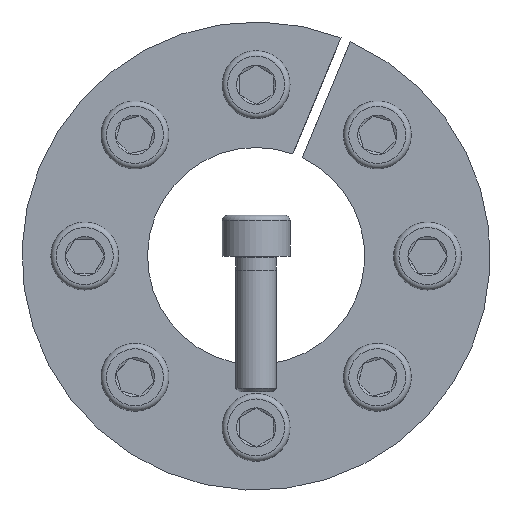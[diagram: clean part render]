
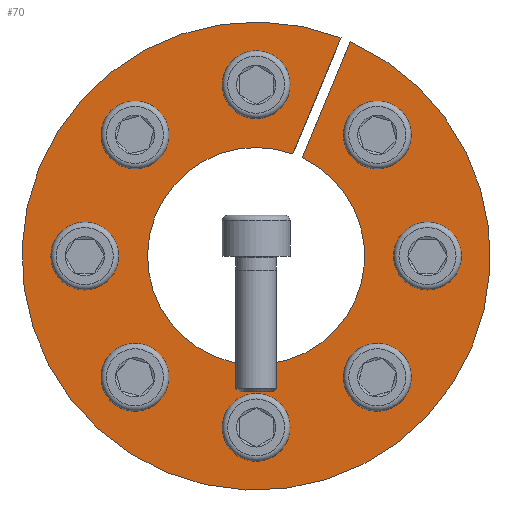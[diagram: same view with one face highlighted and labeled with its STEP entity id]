
A CAD part, front view. The second image highlights one B-rep face of the part: STEP entity #70.
In plain terms, the highlighted planar face has unit normal (0, -1, 0).
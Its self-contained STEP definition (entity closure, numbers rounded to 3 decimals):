
#70 = ADVANCED_FACE( '', ( #157, #158, #159, #160, #161, #162, #163, #164, #165 ), #166, .F. );
#157 = FACE_BOUND( '', #319, .T. );
#158 = FACE_BOUND( '', #320, .T. );
#159 = FACE_BOUND( '', #321, .T. );
#160 = FACE_BOUND( '', #322, .T. );
#161 = FACE_BOUND( '', #323, .T. );
#162 = FACE_BOUND( '', #324, .T. );
#163 = FACE_BOUND( '', #325, .T. );
#164 = FACE_BOUND( '', #326, .T. );
#165 = FACE_OUTER_BOUND( '', #327, .T. );
#166 = PLANE( '', #328 );
#319 = EDGE_LOOP( '', ( #504 ) );
#320 = EDGE_LOOP( '', ( #505 ) );
#321 = EDGE_LOOP( '', ( #506 ) );
#322 = EDGE_LOOP( '', ( #507 ) );
#323 = EDGE_LOOP( '', ( #508 ) );
#324 = EDGE_LOOP( '', ( #509 ) );
#325 = EDGE_LOOP( '', ( #510 ) );
#326 = EDGE_LOOP( '', ( #511 ) );
#327 = EDGE_LOOP( '', ( #512, #513, #514, #515 ) );
#328 = AXIS2_PLACEMENT_3D( '', #516, #517, #518 );
#504 = ORIENTED_EDGE( '', *, *, #801, .T. );
#505 = ORIENTED_EDGE( '', *, *, #802, .T. );
#506 = ORIENTED_EDGE( '', *, *, #803, .T. );
#507 = ORIENTED_EDGE( '', *, *, #804, .T. );
#508 = ORIENTED_EDGE( '', *, *, #805, .T. );
#509 = ORIENTED_EDGE( '', *, *, #806, .T. );
#510 = ORIENTED_EDGE( '', *, *, #807, .T. );
#511 = ORIENTED_EDGE( '', *, *, #808, .T. );
#512 = ORIENTED_EDGE( '', *, *, #809, .T. );
#513 = ORIENTED_EDGE( '', *, *, #810, .T. );
#514 = ORIENTED_EDGE( '', *, *, #811, .T. );
#515 = ORIENTED_EDGE( '', *, *, #812, .F. );
#516 = CARTESIAN_POINT( '', ( 0., 0., 34.5 ) );
#517 = DIRECTION( '', ( 0., 1., 0. ) );
#518 = DIRECTION( '', ( 0., 0., 1. ) );
#801 = EDGE_CURVE( '', #952, #952, #953, .T. );
#802 = EDGE_CURVE( '', #954, #954, #955, .T. );
#803 = EDGE_CURVE( '', #956, #956, #957, .T. );
#804 = EDGE_CURVE( '', #958, #958, #959, .T. );
#805 = EDGE_CURVE( '', #960, #960, #961, .T. );
#806 = EDGE_CURVE( '', #962, #962, #963, .T. );
#807 = EDGE_CURVE( '', #964, #964, #965, .T. );
#808 = EDGE_CURVE( '', #966, #966, #967, .T. );
#809 = EDGE_CURVE( '', #968, #969, #970, .T. );
#810 = EDGE_CURVE( '', #969, #971, #972, .T. );
#811 = EDGE_CURVE( '', #971, #973, #974, .T. );
#812 = EDGE_CURVE( '', #968, #973, #975, .T. );
#952 = VERTEX_POINT( '', #1239 );
#953 = CIRCLE( '', #1240, 3. );
#954 = VERTEX_POINT( '', #1241 );
#955 = CIRCLE( '', #1242, 3. );
#956 = VERTEX_POINT( '', #1243 );
#957 = CIRCLE( '', #1244, 3. );
#958 = VERTEX_POINT( '', #1245 );
#959 = CIRCLE( '', #1246, 3. );
#960 = VERTEX_POINT( '', #1247 );
#961 = CIRCLE( '', #1248, 3. );
#962 = VERTEX_POINT( '', #1249 );
#963 = CIRCLE( '', #1250, 3. );
#964 = VERTEX_POINT( '', #1251 );
#965 = CIRCLE( '', #1252, 3. );
#966 = VERTEX_POINT( '', #1253 );
#967 = CIRCLE( '', #1254, 3. );
#968 = VERTEX_POINT( '', #1255 );
#969 = VERTEX_POINT( '', #1256 );
#970 = LINE( '', #1257, #1258 );
#971 = VERTEX_POINT( '', #1259 );
#972 = CIRCLE( '', #1260, 34.5 );
#973 = VERTEX_POINT( '', #1261 );
#974 = LINE( '', #1262, #1263 );
#975 = CIRCLE( '', #1264, 16. );
#1239 = CARTESIAN_POINT( '', ( -15.733, 0., 19.976 ) );
#1240 = AXIS2_PLACEMENT_3D( '', #1443, #1444, #1445 );
#1241 = CARTESIAN_POINT( '', ( -19.976, 0., -15.733 ) );
#1242 = AXIS2_PLACEMENT_3D( '', #1446, #1447, #1448 );
#1243 = CARTESIAN_POINT( '', ( 15.733, 0., -19.976 ) );
#1244 = AXIS2_PLACEMENT_3D( '', #1449, #1450, #1451 );
#1245 = CARTESIAN_POINT( '', ( 19.976, 0., 15.733 ) );
#1246 = AXIS2_PLACEMENT_3D( '', #1452, #1453, #1454 );
#1247 = CARTESIAN_POINT( '', ( 3., 0., 25.25 ) );
#1248 = AXIS2_PLACEMENT_3D( '', #1455, #1456, #1457 );
#1249 = CARTESIAN_POINT( '', ( 25.25, 0., -3. ) );
#1250 = AXIS2_PLACEMENT_3D( '', #1458, #1459, #1460 );
#1251 = CARTESIAN_POINT( '', ( -3., 0., -25.25 ) );
#1252 = AXIS2_PLACEMENT_3D( '', #1461, #1462, #1463 );
#1253 = CARTESIAN_POINT( '', ( -25.25, 0., 3. ) );
#1254 = AXIS2_PLACEMENT_3D( '', #1464, #1465, #1466 );
#1255 = CARTESIAN_POINT( '', ( 5.423, 0., 15.053 ) );
#1256 = CARTESIAN_POINT( '', ( 12.507, 0., 32.153 ) );
#1257 = CARTESIAN_POINT( '', ( 5.423, 0., 15.053 ) );
#1258 = VECTOR( '', #1467, 1000. );
#1259 = CARTESIAN_POINT( '', ( 13.892, 0., 31.579 ) );
#1260 = AXIS2_PLACEMENT_3D( '', #1468, #1469, #1470 );
#1261 = CARTESIAN_POINT( '', ( 6.809, 0., 14.479 ) );
#1262 = CARTESIAN_POINT( '', ( 13.895, 0., 31.587 ) );
#1263 = VECTOR( '', #1471, 1000. );
#1264 = AXIS2_PLACEMENT_3D( '', #1472, #1473, #1474 );
#1443 = CARTESIAN_POINT( '', ( -17.854, 0., 17.854 ) );
#1444 = DIRECTION( '', ( 0., 1., 0. ) );
#1445 = DIRECTION( '', ( 0.707, 0., 0.707 ) );
#1446 = CARTESIAN_POINT( '', ( -17.854, 0., -17.854 ) );
#1447 = DIRECTION( '', ( 0., 1., 0. ) );
#1448 = DIRECTION( '', ( -0.707, 0., 0.707 ) );
#1449 = CARTESIAN_POINT( '', ( 17.854, 0., -17.854 ) );
#1450 = DIRECTION( '', ( 0., 1., 0. ) );
#1451 = DIRECTION( '', ( -0.707, 0., -0.707 ) );
#1452 = CARTESIAN_POINT( '', ( 17.854, 0., 17.854 ) );
#1453 = DIRECTION( '', ( 0., 1., 0. ) );
#1454 = DIRECTION( '', ( 0.707, 0., -0.707 ) );
#1455 = CARTESIAN_POINT( '', ( 0., 0., 25.25 ) );
#1456 = DIRECTION( '', ( 0., 1., 0. ) );
#1457 = DIRECTION( '', ( 1., 0., 0. ) );
#1458 = CARTESIAN_POINT( '', ( 25.25, 0., 0. ) );
#1459 = DIRECTION( '', ( 0., 1., 0. ) );
#1460 = DIRECTION( '', ( 0., 0., -1. ) );
#1461 = CARTESIAN_POINT( '', ( 0., 0., -25.25 ) );
#1462 = DIRECTION( '', ( 0., 1., 0. ) );
#1463 = DIRECTION( '', ( -1., 0., 0. ) );
#1464 = CARTESIAN_POINT( '', ( -25.25, 0., 0. ) );
#1465 = DIRECTION( '', ( 0., 1., 0. ) );
#1466 = DIRECTION( '', ( 0., 0., 1. ) );
#1467 = DIRECTION( '', ( 0.383, 0., 0.924 ) );
#1468 = CARTESIAN_POINT( '', ( 0., 0., 0. ) );
#1469 = DIRECTION( '', ( 0., -1., 0. ) );
#1470 = DIRECTION( '', ( 0., 0., -1. ) );
#1471 = DIRECTION( '', ( -0.383, 0., -0.924 ) );
#1472 = CARTESIAN_POINT( '', ( 0., 0., 0. ) );
#1473 = DIRECTION( '', ( 0., -1., 0. ) );
#1474 = DIRECTION( '', ( 0., 0., -1. ) );
